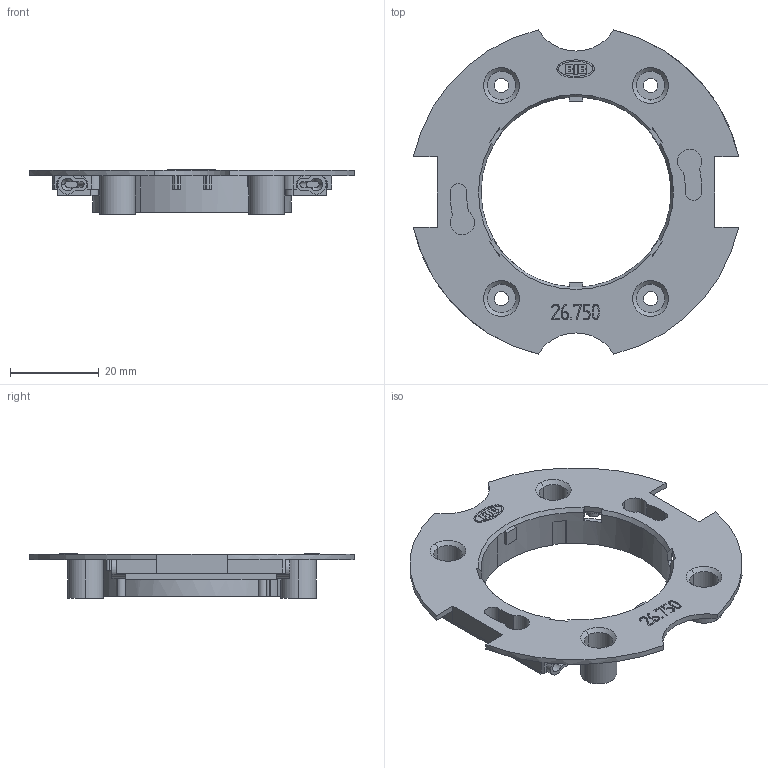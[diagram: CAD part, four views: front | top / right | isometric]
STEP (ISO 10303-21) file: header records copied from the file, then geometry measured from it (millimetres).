
FILE_DESCRIPTION(('CAx-IF Rec.Pracs.---Model Styling and Organization---1.2---2011-12-15','CAx-IF Rec.Pracs.---Geometric and Assembly Validation Properties---4.1---2014-06-16','CAx-IF Rec.Pracs.---PMI Polyline Presentation---2.0---2013-05-24'),'2;1');
FILE_NAME('00XYZ0UY03.stp','2017-11-20T13:14:54+01:00',(''),(''),'STEP Interface 4.1 by CT CoreTechnologie','3D_Evolution4.1 by CT CoreTechnologie','');
FILE_SCHEMA(('AP203_CONFIGURATION_CONTROLLED_3D_DESIGN_OF_MECHANICAL_PARTS_AND_ASSEMBLIES_MIM_LF'));
Length unit declared in the file: millimetre
Products named in the file (1): 00X-Z0U-03
Bounding box: 73.3 x 73.04 x 10 mm (x, y, z)
Volume: 7562 mm3; surface area: 11386.4 mm2
Topology: 1 solids, 1 shells, 482 faces, 1346 edges, 894 vertices
Faces by surface type: plane 279, cylinder 155, bspline 48
Entity records: 20131 total; most frequent: CARTESIAN_POINT 3677, ORIENTED_EDGE 2692, DIRECTION 2549, EDGE_CURVE 1346, VECTOR 917, LINE 917, VERTEX_POINT 894, AXIS2_PLACEMENT_3D 816
